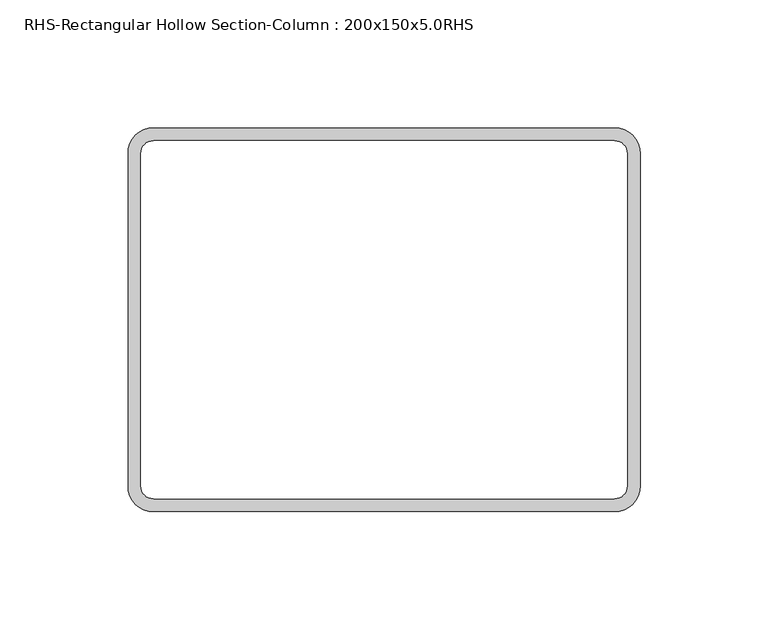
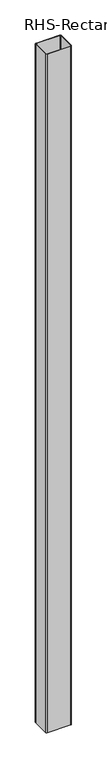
"""IFC4 building model written with IfcOpenShell, lengths in millimetres: column geometry, RHS-Rectangular Hollow Section-Column : 200x150x5.0RHS."""

from ifc_helpers import new_model, si_unit, point, frame, frame_2d, origin, place, context, project, spatial, polyline, circle_curve, trimmed, segment, composite_curve, outline, extrude, source, transform, mapped, element, save


def rhs_rectangular_hollow_section_column_200x150x5_0rhs_9796d75d(model_context):
    return source(origin(), model_context, "Body", "SweptSolid", [
        extrude(outline(composite_curve([segment(polyline([(90.0, -75.0), (-90.0, -75.0)]), True, "CONTINUOUS"), segment(trimmed(circle_curve(frame_2d((-90.0, -65.0)), 10.0), [point((-90.0, -75.0))], [point((-100.0, -65.0))], False, "CARTESIAN"), True, "CONTINUOUS"), segment(polyline([(-100.0, -65.0), (-100.0, 65.0)]), True, "CONTINUOUS"), segment(trimmed(circle_curve(frame_2d((-90.0, 65.0)), 10.0), [point((-100.0, 65.0))], [point((-90.0, 75.0))], False, "CARTESIAN"), True, "CONTINUOUS"), segment(polyline([(-90.0, 75.0), (90.0, 75.0)]), True, "CONTINUOUS"), segment(trimmed(circle_curve(frame_2d((90.0, 65.0)), 10.0), [point((90.0, 75.0))], [point((100.0, 65.0))], False, "CARTESIAN"), True, "CONTINUOUS"), segment(polyline([(100.0, 65.0), (100.0, -65.0)]), True, "CONTINUOUS"), segment(trimmed(circle_curve(frame_2d((90.0, -65.0)), 10.0), [point((100.0, -65.0))], [point((90.0, -75.0))], False, "CARTESIAN"), True, "CONTINUOUS")], self_intersect=False), holes=[composite_curve([segment(trimmed(circle_curve(frame_2d((90.0, -65.0)), 5.0), [point((90.0, -70.0))], [point((95.0, -65.0))], True, "CARTESIAN"), True, "CONTINUOUS"), segment(polyline([(95.0, -65.0), (95.0, 65.0)]), True, "CONTINUOUS"), segment(trimmed(circle_curve(frame_2d((90.0, 65.0)), 5.0), [point((95.0, 65.0))], [point((90.0, 70.0))], True, "CARTESIAN"), True, "CONTINUOUS"), segment(polyline([(90.0, 70.0), (-90.0, 70.0)]), True, "CONTINUOUS"), segment(trimmed(circle_curve(frame_2d((-90.0, 65.0)), 5.0), [point((-90.0, 70.0))], [point((-95.0, 65.0))], True, "CARTESIAN"), True, "CONTINUOUS"), segment(polyline([(-95.0, 65.0), (-95.0, -65.0)]), True, "CONTINUOUS"), segment(trimmed(circle_curve(frame_2d((-90.0, -65.0)), 5.0), [point((-95.0, -65.0))], [point((-90.0, -70.0))], True, "CARTESIAN"), True, "CONTINUOUS"), segment(polyline([(-90.0, -70.0), (90.0, -70.0)]), True, "CONTINUOUS")], self_intersect=False)]), frame((0.0, 0.0, 18360.0), z_axis=(0.0, 0.0, 1.0), x_axis=(1.0, 0.0, 0.0)), (0.0, 0.0, 1.0), 5550.0),
    ])


if __name__ == "__main__":
    model = new_model("IFC4")
    model_context = context("Model", 3, world=origin())
    ifc_project = project(units=[si_unit("LENGTHUNIT", "METRE", prefix="MILLI")], contexts=[model_context])
    site = spatial("IfcSite", under=ifc_project)
    building = spatial("IfcBuilding", under=site)
    placement = place(None, origin())
    rhs_rectangular_hollow_section_column_200x150x5_0rhs_shape = rhs_rectangular_hollow_section_column_200x150x5_0rhs_9796d75d(model_context)
    element("IfcColumn", 1, ObjectType="RHS-Rectangular Hollow Section-Column : 200x150x5.0RHS", at=placement, inside=building, context=model_context, shape_type="MappedRepresentation", body=[
        mapped(rhs_rectangular_hollow_section_column_200x150x5_0rhs_shape, transform((0.0, 0.0, 0.0), x_axis=(1.0, 0.0, 0.0), y_axis=(0.0, 1.0, 0.0), z_axis=(0.0, 0.0, 1.0))),
    ])
    save(model, "model.ifc")
